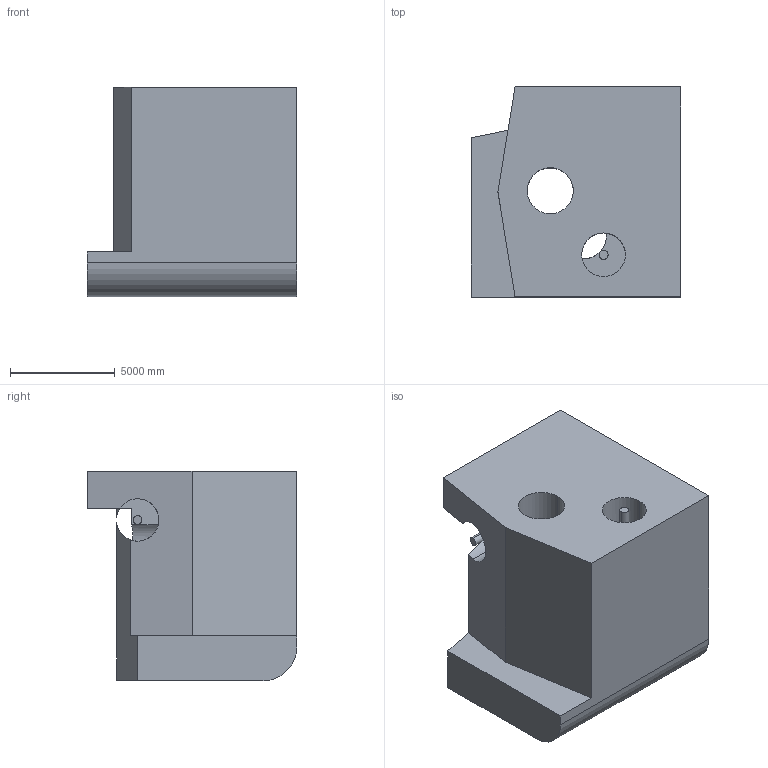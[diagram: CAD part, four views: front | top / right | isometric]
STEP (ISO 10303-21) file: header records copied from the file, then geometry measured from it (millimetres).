
FILE_DESCRIPTION (( 'STEP AP203' ), '1' );
FILE_NAME ('1858.STEP', '2022-08-19T13:37:00', ( 'user' ), ( '' ), 'SwSTEP 2.0', 'SolidWorks 2021', '' );
FILE_SCHEMA (( 'CONFIG_CONTROL_DESIGN' ));
Length unit declared in the file: centimetre
Products named in the file (1): 1858
Bounding box: 10000 x 10000 x 10000 mm (x, y, z)
Volume: 607067816773.5 mm3; surface area: 741719581.5 mm2
Topology: 1 solids, 1 shells, 42 faces, 117 edges, 78 vertices
Faces by surface type: cylinder 21, plane 21
Entity records: 2094 total; most frequent: CARTESIAN_POINT 948, ORIENTED_EDGE 234, DIRECTION 213, EDGE_CURVE 117, VERTEX_POINT 78, AXIS2_PLACEMENT_3D 76, LINE 61, VECTOR 61
